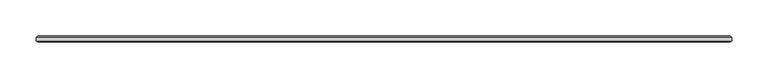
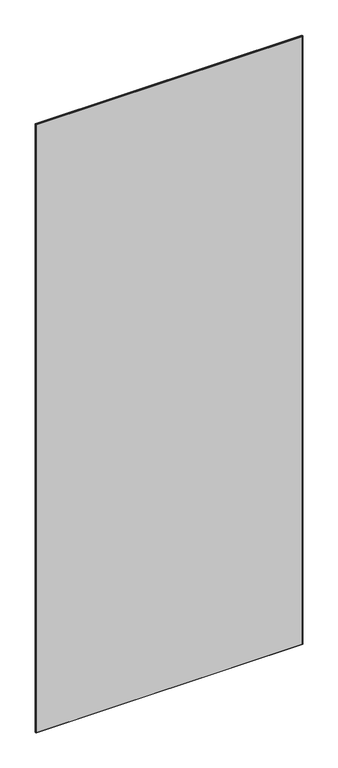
"""IFC4 building model written with IfcOpenShell, lengths in millimetres: plate geometry, 1-AMG-1-Панель одинарный витраж 8, 10 : Смещение 32 Толщина 8mm."""

from ifc_helpers import new_model, si_unit, origin, place, context, project, spatial, faceted_brep, source, transform, mapped, element, save


def plate_5d2dc3b9(model_context):
    return source(origin(), model_context, "Body", "Brep", [
        faceted_brep([(476.4227862, 29.5038347, 2287.8976562), (476.4227862, 34.4961653, 2287.8976562), (-476.4227862, 34.4961653, 2287.8976562), (-476.4227862, 29.5038347, 2287.8976562), (476.4227862, 34.4961653, -7.0), (476.4227862, 29.5038347, -7.0), (-476.4227862, 29.5038347, -7.0), (-476.4227862, 34.4961653, -7.0), (-474.9189515, 36.0, 2286.3938215), (474.9189515, 36.0, 2286.3938215), (474.9189515, 36.0, -5.5039422), (-474.9189515, 36.0, -5.5039422), (474.9189515, 28.0, 2286.3938215), (-474.9189515, 28.0, 2286.3938215), (-474.9189515, 28.0, -5.4961653), (474.9189515, 28.0, -5.4961653)], [[[0, 1, 2, 3]], [[4, 5, 6, 7]], [[8, 9, 10, 11]], [[3, 2, 7, 6]], [[12, 13, 14, 15]], [[1, 0, 5, 4]], [[1, 4, 10, 9]], [[5, 0, 12, 15]], [[7, 2, 8, 11]], [[3, 6, 14, 13]], [[0, 3, 13, 12]], [[2, 1, 9, 8]], [[6, 5, 15, 14]], [[4, 7, 11, 10]]]),
    ])


if __name__ == "__main__":
    model = new_model("IFC4")
    model_context = context("Model", 3, world=origin())
    ifc_project = project(units=[si_unit("LENGTHUNIT", "METRE", prefix="MILLI")], contexts=[model_context])
    site = spatial("IfcSite", under=ifc_project)
    building = spatial("IfcBuilding", under=site)
    placement = place(None, origin())
    plate_shape = plate_5d2dc3b9(model_context)
    element("IfcPlate", 1, ObjectType="1-AMG-1-Панель одинарный витраж 8, 10 : Смещение 32 Толщина 8mm", at=placement, inside=building, context=model_context, shape_type="MappedRepresentation", body=[
        mapped(plate_shape, transform((0.0, 0.0, 0.0), x_axis=(1.0, 0.0, 0.0), y_axis=(0.0, 1.0, 0.0), z_axis=(0.0, 0.0, 1.0))),
    ])
    save(model, "model.ifc")
